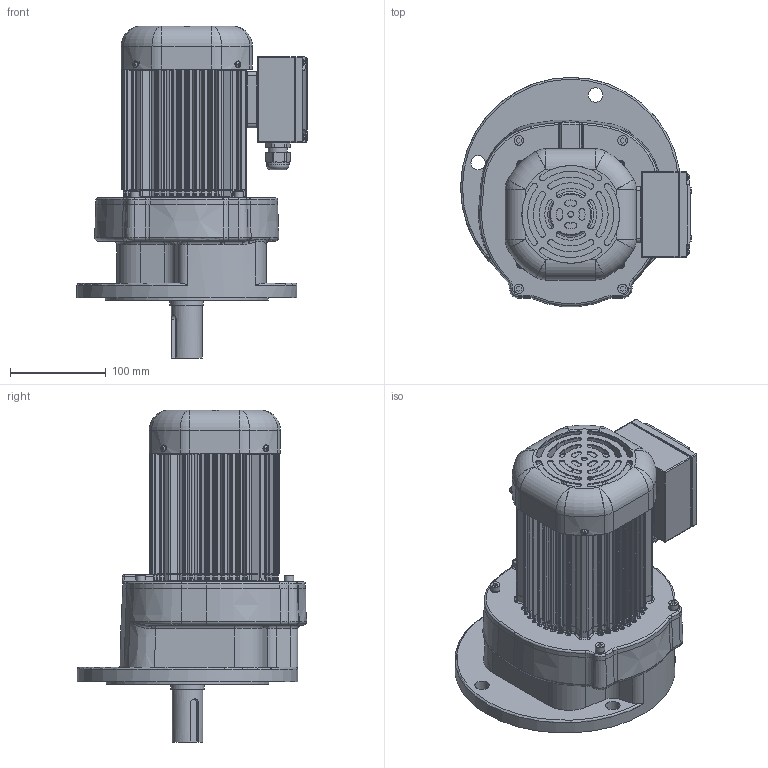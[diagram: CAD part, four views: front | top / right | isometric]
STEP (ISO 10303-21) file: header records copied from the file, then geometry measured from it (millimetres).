
FILE_DESCRIPTION(/* description */ (''),/* implementation_level */ '2;1');
FILE_NAME(/* name */ 'Z:\동력 3D 파일\PMK135-(90~200)-MA(B)040[ ]L_(3D).stp',/* time_stamp */ '2021-08-31T13:15:11+09:00',/* author */ ('jaebok'),/* organization */ (''),/* preprocessor_version */ 'ST-DEVELOPER v18.1',/* originating_system */ 'Autodesk Inventor 2022',/* authorisation */ '');
FILE_SCHEMA (('AUTOMOTIVE_DESIGN { 1 0 10303 214 3 1 1 }'));
Products named in the file (1): 부품7
Bounding box: 241 x 239.45 x 346.5 mm (x, y, z)
Volume: 2157251.4 mm3; surface area: 651415.7 mm2
Topology: 1 solids, 30 shells, 3199 faces, 8148 edges, 4869 vertices
Faces by surface type: plane 1000, cylinder 899, bspline 773, torus 307, cone 110, sphere 110
Full cylindrical faces by diameter (mm): 3.25 x1, 3.5 x4, 3.6 x4, 4 x21, 4.917 x3, 5 x19, 6 x9, 6.8 x4, 7 x12, 8 x1, 9.5 x4, 10 x5, 12 x1, 12.5 x1, 15 x5, 18 x1, 19 x1, 20 x2, 21 x1, 22 x1, 23.6 x1, 24 x1, 25 x1, 30 x2, 32 x2, 35 x2, 40 x2, 42 x2, 44 x1, 50 x1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
Entity records: 127504 total; most frequent: CARTESIAN_POINT 51781, ORIENTED_EDGE 15840, DIRECTION 14166, EDGE_CURVE 7920, AXIS2_PLACEMENT_3D 5687, VERTEX_POINT 4867, EDGE_LOOP 3389, FACE_OUTER_BOUND 3199
